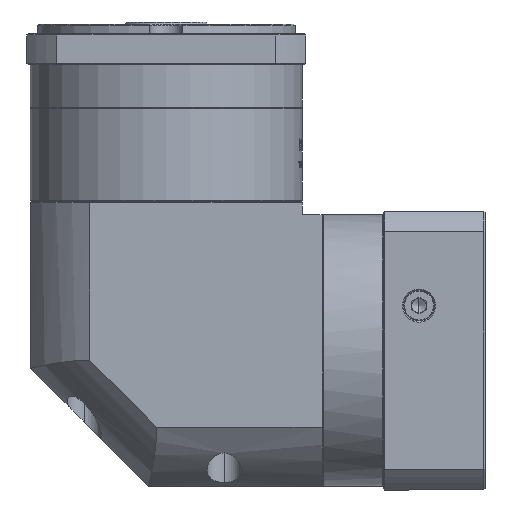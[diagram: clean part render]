
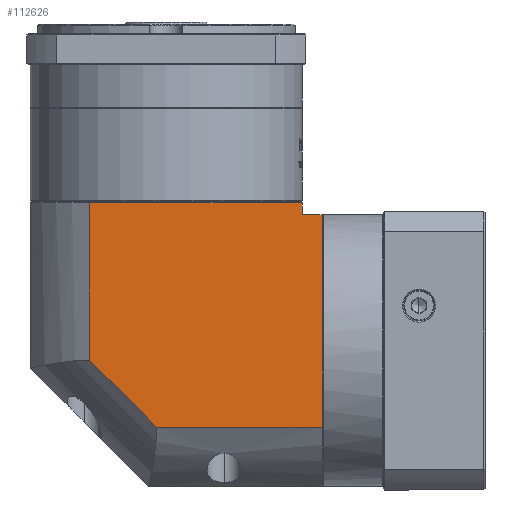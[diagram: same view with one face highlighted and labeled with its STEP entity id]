
A CAD part, left-side view. The second image highlights one B-rep face of the part: STEP entity #112626.
In plain terms, the highlighted planar face has unit normal (-1, 0, 0).
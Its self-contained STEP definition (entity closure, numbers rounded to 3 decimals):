
#545 = VERTEX_POINT ( 'NONE', #16245 ) ;
#4388 = DIRECTION ( 'NONE',  ( 0., 0., 1. ) ) ;
#7443 = DIRECTION ( 'NONE',  ( 1., 0., 0. ) ) ;
#7586 = CARTESIAN_POINT ( 'NONE',  ( -266.518, -97.933, 82.796 ) ) ;
#8987 = VECTOR ( 'NONE', #48858, 1000. ) ;
#12340 = VERTEX_POINT ( 'NONE', #134472 ) ;
#16245 = CARTESIAN_POINT ( 'NONE',  ( -266.518, -27.971, -7.104 ) ) ;
#17185 = CARTESIAN_POINT ( 'NONE',  ( -266.518, -97.933, -7.104 ) ) ;
#22133 = CARTESIAN_POINT ( 'NONE',  ( -266.518, -27.971, -7.104 ) ) ;
#25197 = EDGE_CURVE ( 'NONE', #57414, #53080, #29897, .T. ) ;
#25888 = VECTOR ( 'NONE', #135078, 1000. ) ;
#29414 = CARTESIAN_POINT ( 'NONE',  ( -266.518, -89.533, 82.796 ) ) ;
#29897 = LINE ( 'NONE', #120174, #93200 ) ;
#31522 = CARTESIAN_POINT ( 'NONE',  ( -266.518, -89.533, -32.204 ) ) ;
#32127 = DIRECTION ( 'NONE',  ( 0., 0., -1. ) ) ;
#32623 = FACE_OUTER_BOUND ( 'NONE', #50244, .T. ) ;
#44124 = ORIENTED_EDGE ( 'NONE', *, *, #118294, .F. ) ;
#45628 = DIRECTION ( 'NONE',  ( 0., 1., 0. ) ) ;
#48858 = DIRECTION ( 'NONE',  ( 0., -1., 0. ) ) ;
#50244 = EDGE_LOOP ( 'NONE', ( #44124, #60366, #109975, #77138, #113220, #141165, #72423 ) ) ;
#50614 = LINE ( 'NONE', #150680, #8987 ) ;
#51413 = DIRECTION ( 'NONE',  ( 0., 1., 0. ) ) ;
#53080 = VERTEX_POINT ( 'NONE', #17185 ) ;
#53535 = CARTESIAN_POINT ( 'NONE',  ( -266.518, -89.533, 87.796 ) ) ;
#54263 = DIRECTION ( 'NONE',  ( 0., 1., 0. ) ) ;
#57414 = VERTEX_POINT ( 'NONE', #7586 ) ;
#60366 = ORIENTED_EDGE ( 'NONE', *, *, #78047, .F. ) ;
#69740 = CARTESIAN_POINT ( 'NONE',  ( -266.518, 0.367, 21.234 ) ) ;
#72423 = ORIENTED_EDGE ( 'NONE', *, *, #124831, .F. ) ;
#75050 = LINE ( 'NONE', #31522, #106916 ) ;
#76974 = VECTOR ( 'NONE', #4388, 1000. ) ;
#77138 = ORIENTED_EDGE ( 'NONE', *, *, #25197, .F. ) ;
#78005 = VERTEX_POINT ( 'NONE', #69740 ) ;
#78047 = EDGE_CURVE ( 'NONE', #545, #78005, #83345, .T. ) ;
#80210 = DIRECTION ( 'NONE',  ( 0., 0., 1. ) ) ;
#83345 = LINE ( 'NONE', #22133, #25888 ) ;
#87698 = AXIS2_PLACEMENT_3D ( 'NONE', #122061, #7443, #45628 ) ;
#93200 = VECTOR ( 'NONE', #32127, 1000. ) ;
#93499 = CARTESIAN_POINT ( 'NONE',  ( -266.518, 0.367, 94.296 ) ) ;
#97880 = VERTEX_POINT ( 'NONE', #53535 ) ;
#100147 = EDGE_CURVE ( 'NONE', #53080, #545, #104836, .T. ) ;
#101441 = EDGE_CURVE ( 'NONE', #57414, #150864, #137737, .T. ) ;
#103354 = EDGE_CURVE ( 'NONE', #150864, #97880, #75050, .T. ) ;
#104836 = LINE ( 'NONE', #151038, #112791 ) ;
#106916 = VECTOR ( 'NONE', #80210, 1000. ) ;
#107887 = CARTESIAN_POINT ( 'NONE',  ( -266.518, -89.533, 82.796 ) ) ;
#109975 = ORIENTED_EDGE ( 'NONE', *, *, #100147, .F. ) ;
#112626 = ADVANCED_FACE ( 'NONE', ( #32623 ), #134753, .F. ) ;
#112791 = VECTOR ( 'NONE', #51413, 1000. ) ;
#113220 = ORIENTED_EDGE ( 'NONE', *, *, #101441, .T. ) ;
#113929 = VECTOR ( 'NONE', #54263, 1000. ) ;
#118294 = EDGE_CURVE ( 'NONE', #78005, #12340, #124510, .T. ) ;
#120174 = CARTESIAN_POINT ( 'NONE',  ( -266.518, -97.933, 94.296 ) ) ;
#122061 = CARTESIAN_POINT ( 'NONE',  ( -266.518, 25.467, 94.296 ) ) ;
#124510 = LINE ( 'NONE', #93499, #76974 ) ;
#124831 = EDGE_CURVE ( 'NONE', #12340, #97880, #50614, .T. ) ;
#134472 = CARTESIAN_POINT ( 'NONE',  ( -266.518, 0.367, 87.796 ) ) ;
#134753 = PLANE ( 'NONE',  #87698 ) ;
#135078 = DIRECTION ( 'NONE',  ( 0., 0.707, 0.707 ) ) ;
#137737 = LINE ( 'NONE', #29414, #113929 ) ;
#141165 = ORIENTED_EDGE ( 'NONE', *, *, #103354, .T. ) ;
#150680 = CARTESIAN_POINT ( 'NONE',  ( -266.518, 25.467, 87.796 ) ) ;
#150864 = VERTEX_POINT ( 'NONE', #107887 ) ;
#151038 = CARTESIAN_POINT ( 'NONE',  ( -266.518, 25.467, -7.104 ) ) ;
